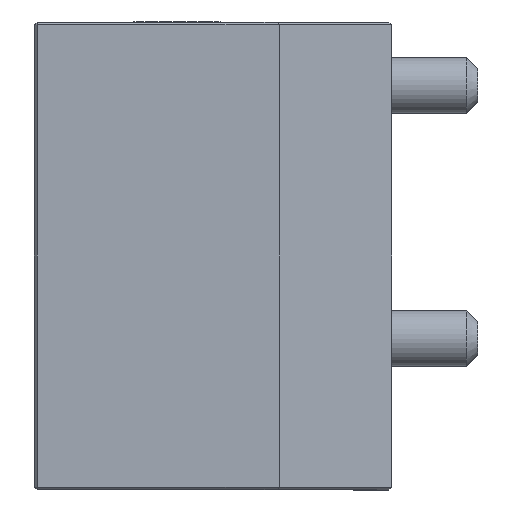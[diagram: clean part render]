
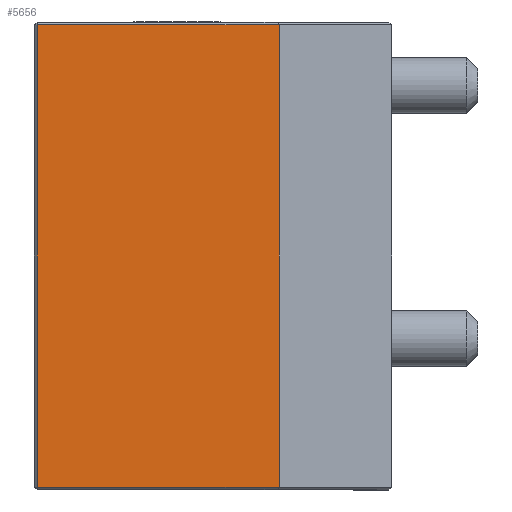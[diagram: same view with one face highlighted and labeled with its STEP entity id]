
A CAD part, left-side view. The second image highlights one B-rep face of the part: STEP entity #5656.
In plain terms, the highlighted planar face has unit normal (-1, 0, 0).
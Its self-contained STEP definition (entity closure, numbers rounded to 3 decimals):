
#5 = CARTESIAN_POINT ( 'NONE',  ( -59.229, -56.153, -16.435 ) ) ;
#29 = DIRECTION ( 'NONE',  ( 0., 0., -1. ) ) ;
#63 = CARTESIAN_POINT ( 'NONE',  ( -59.229, -38.953, 16.635 ) ) ;
#940 = AXIS2_PLACEMENT_3D ( 'NONE', #7214, #5176, #5157 ) ;
#1217 = VERTEX_POINT ( 'NONE', #5740 ) ;
#1241 = VERTEX_POINT ( 'NONE', #5190 ) ;
#1328 = VERTEX_POINT ( 'NONE', #4096 ) ;
#1431 = VERTEX_POINT ( 'NONE', #5 ) ;
#1560 = CARTESIAN_POINT ( 'NONE',  ( -59.229, -56.153, 16.635 ) ) ;
#2419 = DIRECTION ( 'NONE',  ( 0., 0., -1. ) ) ;
#2594 = EDGE_LOOP ( 'NONE', ( #3870, #5720, #6748, #3834 ) ) ;
#2802 = EDGE_CURVE ( 'NONE', #1241, #1328, #4072, .T. ) ;
#3100 = EDGE_CURVE ( 'NONE', #1328, #1431, #4790, .T. ) ;
#3411 = EDGE_CURVE ( 'NONE', #1431, #1217, #5826, .T. ) ;
#3750 = CARTESIAN_POINT ( 'NONE',  ( -59.229, -64.153, -16.435 ) ) ;
#3834 = ORIENTED_EDGE ( 'NONE', *, *, #7417, .T. ) ;
#3840 = DIRECTION ( 'NONE',  ( 0., 1., 0. ) ) ;
#3870 = ORIENTED_EDGE ( 'NONE', *, *, #3411, .F. ) ;
#3872 = PLANE ( 'NONE',  #940 ) ;
#4072 = LINE ( 'NONE', #8094, #4091 ) ;
#4091 = VECTOR ( 'NONE', #6773, 1000. ) ;
#4096 = CARTESIAN_POINT ( 'NONE',  ( -59.229, -56.153, 16.435 ) ) ;
#4790 = LINE ( 'NONE', #1560, #4843 ) ;
#4832 = FACE_OUTER_BOUND ( 'NONE', #2594, .T. ) ;
#4843 = VECTOR ( 'NONE', #2419, 1000. ) ;
#5157 = DIRECTION ( 'NONE',  ( 0., 0., -1. ) ) ;
#5176 = DIRECTION ( 'NONE',  ( 1., 0., 0. ) ) ;
#5190 = CARTESIAN_POINT ( 'NONE',  ( -59.229, -38.953, 16.435 ) ) ;
#5656 = ADVANCED_FACE ( 'NONE', ( #4832 ), #3872, .F. ) ;
#5720 = ORIENTED_EDGE ( 'NONE', *, *, #3100, .F. ) ;
#5740 = CARTESIAN_POINT ( 'NONE',  ( -59.229, -38.953, -16.435 ) ) ;
#5826 = LINE ( 'NONE', #3750, #5830 ) ;
#5830 = VECTOR ( 'NONE', #3840, 1000. ) ;
#6748 = ORIENTED_EDGE ( 'NONE', *, *, #2802, .F. ) ;
#6773 = DIRECTION ( 'NONE',  ( 0., -1., 0. ) ) ;
#7214 = CARTESIAN_POINT ( 'NONE',  ( -59.229, -64.153, 16.635 ) ) ;
#7417 = EDGE_CURVE ( 'NONE', #1241, #1217, #8026, .T. ) ;
#8026 = LINE ( 'NONE', #63, #8100 ) ;
#8094 = CARTESIAN_POINT ( 'NONE',  ( -59.229, -64.153, 16.435 ) ) ;
#8100 = VECTOR ( 'NONE', #29, 1000. ) ;
